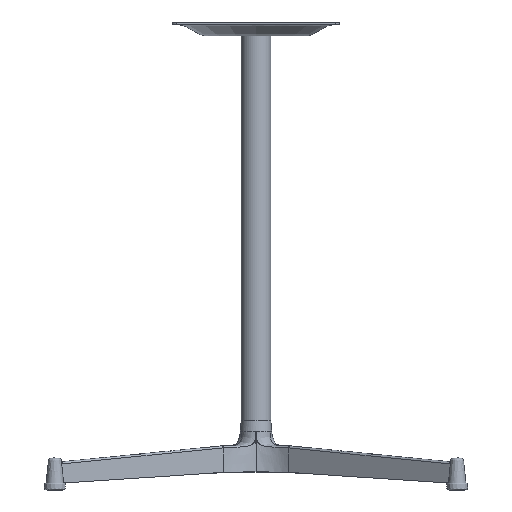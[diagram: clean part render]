
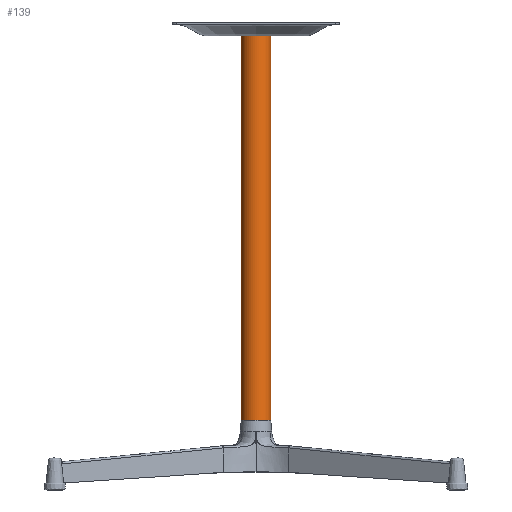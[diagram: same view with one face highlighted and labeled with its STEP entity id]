
A CAD part, front view. The second image highlights one B-rep face of the part: STEP entity #139.
In plain terms, the highlighted free-form (B-spline) face has degree [2, 1] with [9, 2] control points.
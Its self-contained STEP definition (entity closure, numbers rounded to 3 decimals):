
#139=ADVANCED_FACE('',(#225),#1476,.T.);
#225=FACE_OUTER_BOUND('',#323,.T.);
#323=EDGE_LOOP('',(#555,#556,#557,#558));
#555=ORIENTED_EDGE('',*,*,#886,.F.);
#556=ORIENTED_EDGE('',*,*,#885,.T.);
#557=ORIENTED_EDGE('',*,*,#886,.T.);
#558=ORIENTED_EDGE('',*,*,#887,.F.);
#885=EDGE_CURVE('',#1354,#1354,#1228,.T.);
#886=EDGE_CURVE('',#1354,#1353,#1229,.T.);
#887=EDGE_CURVE('',#1353,#1353,#1230,.T.);
#1228=(
BOUNDED_CURVE()
B_SPLINE_CURVE(2,(#2620,#2621,#2622,#2623,#2624,#2625,#2626,#2627,#2628),
 .UNSPECIFIED.,.T.,.F.)
B_SPLINE_CURVE_WITH_KNOTS((3,2,2,2,3),(0.,33.536,67.073,
100.609,134.146),.UNSPECIFIED.)
CURVE()
GEOMETRIC_REPRESENTATION_ITEM()
RATIONAL_B_SPLINE_CURVE((1.,0.707,1.,0.707,1.,0.707,
1.,0.707,1.))
REPRESENTATION_ITEM('')
);
#1229=(
BOUNDED_CURVE()
B_SPLINE_CURVE(1,(#2629,#2630),.UNSPECIFIED.,.F.,.F.)
B_SPLINE_CURVE_WITH_KNOTS((2,2),(0.,550.),.UNSPECIFIED.)
CURVE()
GEOMETRIC_REPRESENTATION_ITEM()
RATIONAL_B_SPLINE_CURVE((1.,1.))
REPRESENTATION_ITEM('')
);
#1230=(
BOUNDED_CURVE()
B_SPLINE_CURVE(2,(#2631,#2632,#2633,#2634,#2635,#2636,#2637,#2638,#2639),
 .UNSPECIFIED.,.T.,.F.)
B_SPLINE_CURVE_WITH_KNOTS((3,2,2,2,3),(0.,33.536,67.073,
100.609,134.146),.UNSPECIFIED.)
CURVE()
GEOMETRIC_REPRESENTATION_ITEM()
RATIONAL_B_SPLINE_CURVE((1.,0.707,1.,0.707,1.,0.707,
1.,0.707,1.))
REPRESENTATION_ITEM('')
);
#1353=VERTEX_POINT('',#2618);
#1354=VERTEX_POINT('',#2619);
#1476=(
BOUNDED_SURFACE()
B_SPLINE_SURFACE(2,1,((#2600,#2601),(#2602,#2603),(#2604,#2605),(#2606,
#2607),(#2608,#2609),(#2610,#2611),(#2612,#2613),(#2614,#2615),(#2616,#2617)),
 .UNSPECIFIED.,.T.,.F.,.F.)
B_SPLINE_SURFACE_WITH_KNOTS((3,2,2,2,3),(2,2),(0.,33.536,67.073,
100.609,134.146),(0.,650.),.UNSPECIFIED.)
GEOMETRIC_REPRESENTATION_ITEM()
RATIONAL_B_SPLINE_SURFACE(((1.,1.),(0.707,0.707),
(1.,1.),(0.707,0.707),(1.,1.),(0.707,
0.707),(1.,1.),(0.707,0.707),(1.,1.)))
REPRESENTATION_ITEM('')
SURFACE()
);
#2600=CARTESIAN_POINT('',(21.35,0.,650.));
#2601=CARTESIAN_POINT('',(21.35,0.,0.));
#2602=CARTESIAN_POINT('',(21.35,-21.35,650.));
#2603=CARTESIAN_POINT('',(21.35,-21.35,0.));
#2604=CARTESIAN_POINT('',(0.,-21.35,650.));
#2605=CARTESIAN_POINT('',(0.,-21.35,0.));
#2606=CARTESIAN_POINT('',(-21.35,-21.35,650.));
#2607=CARTESIAN_POINT('',(-21.35,-21.35,0.));
#2608=CARTESIAN_POINT('',(-21.35,0.,650.));
#2609=CARTESIAN_POINT('',(-21.35,0.,0.));
#2610=CARTESIAN_POINT('',(-21.35,21.35,650.));
#2611=CARTESIAN_POINT('',(-21.35,21.35,0.));
#2612=CARTESIAN_POINT('',(0.,21.35,650.));
#2613=CARTESIAN_POINT('',(0.,21.35,0.));
#2614=CARTESIAN_POINT('',(21.35,21.35,650.));
#2615=CARTESIAN_POINT('',(21.35,21.35,0.));
#2616=CARTESIAN_POINT('',(21.35,0.,650.));
#2617=CARTESIAN_POINT('',(21.35,0.,0.));
#2618=CARTESIAN_POINT('',(21.35,0.,100.));
#2619=CARTESIAN_POINT('',(21.35,0.,650.));
#2620=CARTESIAN_POINT('',(21.35,0.,650.));
#2621=CARTESIAN_POINT('',(21.35,-21.35,650.));
#2622=CARTESIAN_POINT('',(0.,-21.35,650.));
#2623=CARTESIAN_POINT('',(-21.35,-21.35,650.));
#2624=CARTESIAN_POINT('',(-21.35,0.,650.));
#2625=CARTESIAN_POINT('',(-21.35,21.35,650.));
#2626=CARTESIAN_POINT('',(0.,21.35,650.));
#2627=CARTESIAN_POINT('',(21.35,21.35,650.));
#2628=CARTESIAN_POINT('',(21.35,0.,650.));
#2629=CARTESIAN_POINT('',(21.35,0.,650.));
#2630=CARTESIAN_POINT('',(21.35,0.,100.));
#2631=CARTESIAN_POINT('',(21.35,0.,100.));
#2632=CARTESIAN_POINT('',(21.35,-21.35,100.));
#2633=CARTESIAN_POINT('',(0.,-21.35,100.));
#2634=CARTESIAN_POINT('',(-21.35,-21.35,100.));
#2635=CARTESIAN_POINT('',(-21.35,0.,100.));
#2636=CARTESIAN_POINT('',(-21.35,21.35,100.));
#2637=CARTESIAN_POINT('',(0.,21.35,100.));
#2638=CARTESIAN_POINT('',(21.35,21.35,100.));
#2639=CARTESIAN_POINT('',(21.35,0.,100.));
